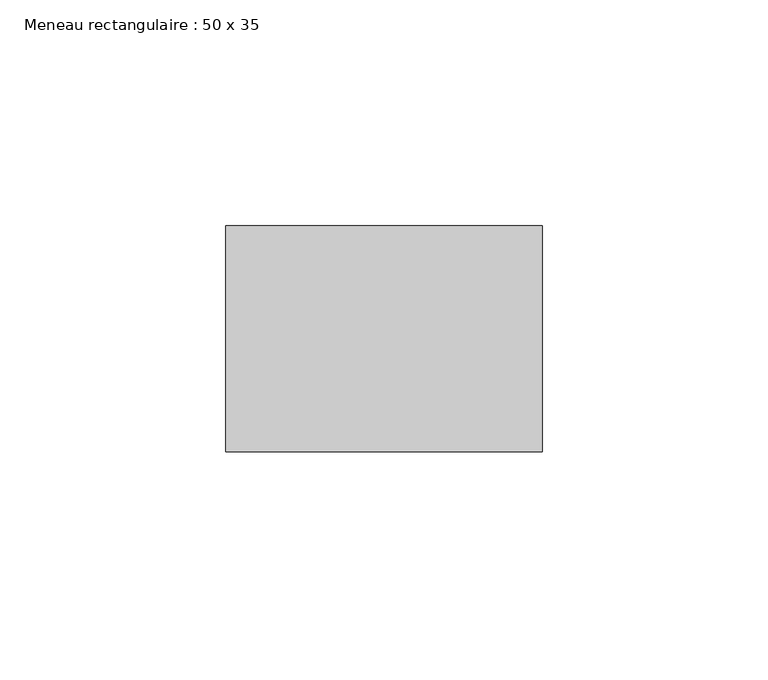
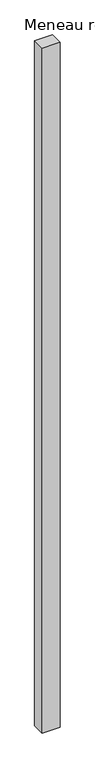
"""IFC4 building model written with IfcOpenShell, lengths in millimetres: member geometry, Meneau rectangulaire : 50 x 35."""

from ifc_helpers import new_model, si_unit, frame, origin, place, context, project, spatial, polyline, outline, extrude, source, transform, mapped, element, save


def meneau_rectangulaire_50_x_35_e005d01b(model_context):
    return source(origin(), model_context, "Body", "SweptSolid", [
        extrude(outline(polyline([(0.0, 0.0), (0.0, -50.0), (-70.0, -50.0), (-70.0, 0.0), (0.0, 0.0)])), frame((0.0, 0.0, -2809.3634316), z_axis=(0.0, 0.0, 1.0), x_axis=(1.0, 0.0, 0.0)), (0.0, 0.0, 1.0), 2809.3634316),
    ])


if __name__ == "__main__":
    model = new_model("IFC4")
    model_context = context("Model", 3, world=origin())
    ifc_project = project(units=[si_unit("LENGTHUNIT", "METRE", prefix="MILLI")], contexts=[model_context])
    site = spatial("IfcSite", under=ifc_project)
    building = spatial("IfcBuilding", under=site)
    placement = place(None, origin())
    meneau_rectangulaire_50_x_35_shape = meneau_rectangulaire_50_x_35_e005d01b(model_context)
    element("IfcMember", 1, ObjectType="Meneau rectangulaire : 50 x 35", at=placement, inside=building, context=model_context, shape_type="MappedRepresentation", body=[
        mapped(meneau_rectangulaire_50_x_35_shape, transform((0.0, 0.0, 0.0), x_axis=(1.0, 0.0, 0.0), y_axis=(0.0, 1.0, 0.0), z_axis=(0.0, 0.0, 1.0))),
    ])
    save(model, "model.ifc")
